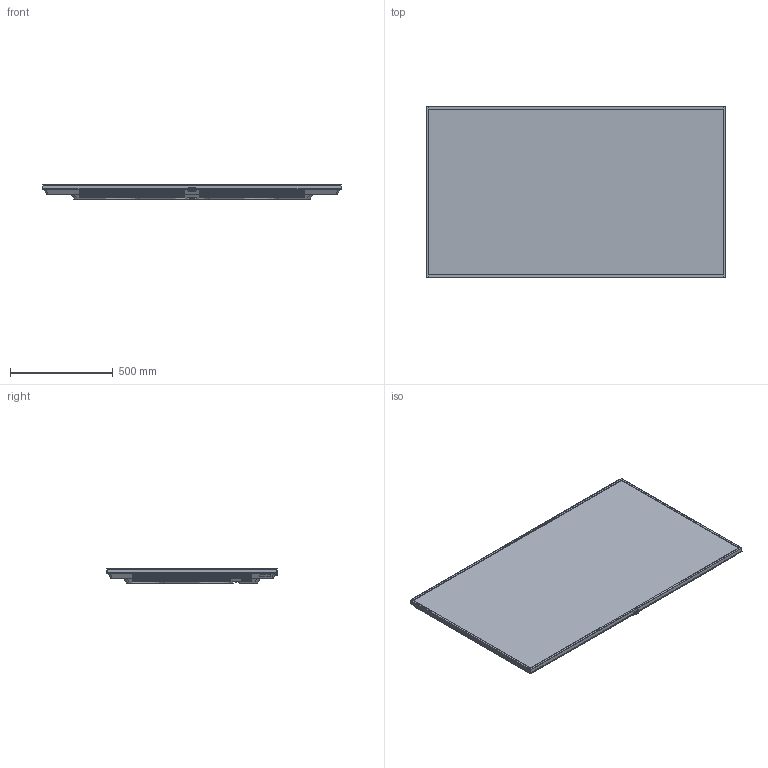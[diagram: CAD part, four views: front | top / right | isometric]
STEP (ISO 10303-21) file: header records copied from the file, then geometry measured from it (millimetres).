
FILE_DESCRIPTION (( 'STEP AP203' ), '1' );
FILE_NAME ('SLE652 Panel 3D 011326.STEP', '2026-01-13T22:52:35', ( '' ), ( '' ), 'SwSTEP 2.0', 'SolidWorks 2025', '' );
FILE_SCHEMA (( 'CONFIG_CONTROL_DESIGN' ));
Products named in the file (1): SLE652 Panel 3D 011326
Bounding box: 1456.66 x 831.32 x 68.8 mm (x, y, z)
Volume: 49871363.4 mm3; surface area: 5595992.7 mm2
Topology: 12 solids, 12 shells, 9554 faces, 26202 edges, 17443 vertices
Faces by surface type: plane 6397, cylinder 2940, bspline 151, cone 56, sphere 9, torus 1
Entity records: 310960 total; most frequent: CARTESIAN_POINT 71979, ORIENTED_EDGE 52404, DIRECTION 46102, EDGE_CURVE 26202, VECTOR 18514, LINE 18514, VERTEX_POINT 17443, AXIS2_PLACEMENT_3D 13794
